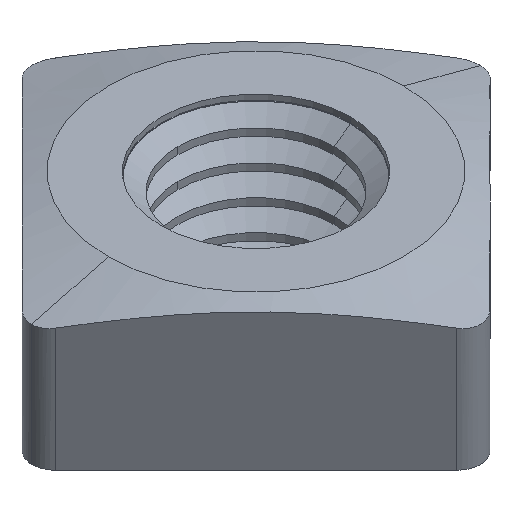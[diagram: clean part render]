
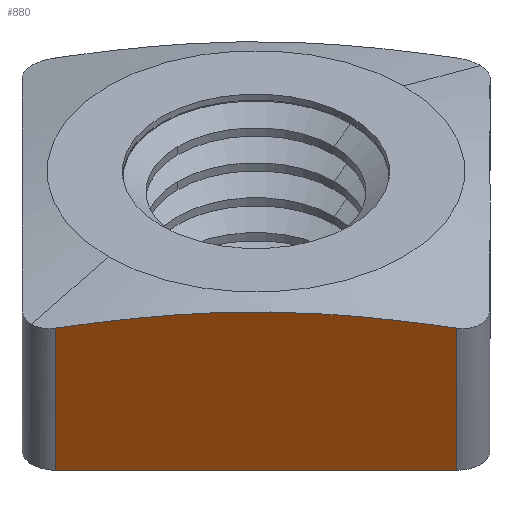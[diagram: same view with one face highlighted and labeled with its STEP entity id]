
A CAD part, isometric view. The second image highlights one B-rep face of the part: STEP entity #880.
In plain terms, the highlighted planar face has unit normal (-0.707, -0.707, 0).
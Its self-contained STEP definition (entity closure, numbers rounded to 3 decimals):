
#34 = CARTESIAN_POINT ( 'NONE',  ( -0.354, -4.596, -0.297 ) ) ;
#59 = CARTESIAN_POINT ( 'NONE',  ( -4.596, -0.354, -2.9 ) ) ;
#67 = DIRECTION ( 'NONE',  ( 0., 0., -1. ) ) ;
#127 = ORIENTED_EDGE ( 'NONE', *, *, #1366, .T. ) ;
#131 = CARTESIAN_POINT ( 'NONE',  ( -2.475, -2.475, -2.9 ) ) ;
#276 = CARTESIAN_POINT ( 'NONE',  ( -3.178, -1.771, 0.002 ) ) ;
#310 = CARTESIAN_POINT ( 'NONE',  ( -4.95, 0., -3.2 ) ) ;
#367 = EDGE_CURVE ( 'NONE', #584, #380, #1387, .T. ) ;
#380 = VERTEX_POINT ( 'NONE', #1505 ) ;
#432 = FACE_OUTER_BOUND ( 'NONE', #766, .T. ) ;
#436 = VERTEX_POINT ( 'NONE', #1016 ) ;
#497 = CARTESIAN_POINT ( 'NONE',  ( -0.354, -4.596, -3.2 ) ) ;
#502 = B_SPLINE_CURVE_WITH_KNOTS ( 'NONE', 3,
 ( #877, #770, #1543, #276, #761, #637 ),
 .UNSPECIFIED., .F., .F.,
 ( 4, 2, 4 ),
 ( -0.003, 0., 0.003 ),
 .UNSPECIFIED. ) ;
#583 = DIRECTION ( 'NONE',  ( 0., 0., 1. ) ) ;
#584 = VERTEX_POINT ( 'NONE', #59 ) ;
#637 = CARTESIAN_POINT ( 'NONE',  ( -4.596, -0.354, -0.297 ) ) ;
#659 = VECTOR ( 'NONE', #67, 1000. ) ;
#706 = VECTOR ( 'NONE', #1236, 1000. ) ;
#736 = EDGE_CURVE ( 'NONE', #804, #436, #502, .T. ) ;
#746 = ORIENTED_EDGE ( 'NONE', *, *, #1512, .T. ) ;
#761 = CARTESIAN_POINT ( 'NONE',  ( -3.889, -1.06, -0.123 ) ) ;
#766 = EDGE_LOOP ( 'NONE', ( #1075, #746, #991, #127 ) ) ;
#770 = CARTESIAN_POINT ( 'NONE',  ( -1.042, -3.908, -0.128 ) ) ;
#804 = VERTEX_POINT ( 'NONE', #34 ) ;
#806 = CARTESIAN_POINT ( 'NONE',  ( -4.596, -0.354, -3.2 ) ) ;
#877 = CARTESIAN_POINT ( 'NONE',  ( -0.354, -4.596, -0.297 ) ) ;
#880 = ADVANCED_FACE ( 'NONE', ( #432 ), #908, .T. ) ;
#908 = PLANE ( 'NONE',  #1555 ) ;
#991 = ORIENTED_EDGE ( 'NONE', *, *, #736, .T. ) ;
#1016 = CARTESIAN_POINT ( 'NONE',  ( -4.596, -0.354, -0.297 ) ) ;
#1075 = ORIENTED_EDGE ( 'NONE', *, *, #367, .T. ) ;
#1123 = DIRECTION ( 'NONE',  ( 0.707, -0.707, 0. ) ) ;
#1236 = DIRECTION ( 'NONE',  ( 0.707, -0.707, 0. ) ) ;
#1245 = DIRECTION ( 'NONE',  ( -0.707, -0.707, 0. ) ) ;
#1285 = VECTOR ( 'NONE', #583, 1000. ) ;
#1341 = LINE ( 'NONE', #497, #1285 ) ;
#1366 = EDGE_CURVE ( 'NONE', #436, #584, #1551, .T. ) ;
#1387 = LINE ( 'NONE', #131, #706 ) ;
#1505 = CARTESIAN_POINT ( 'NONE',  ( -0.354, -4.596, -2.9 ) ) ;
#1512 = EDGE_CURVE ( 'NONE', #380, #804, #1341, .T. ) ;
#1543 = CARTESIAN_POINT ( 'NONE',  ( -1.738, -3.211, -0.002 ) ) ;
#1551 = LINE ( 'NONE', #806, #659 ) ;
#1555 = AXIS2_PLACEMENT_3D ( 'NONE', #310, #1245, #1123 ) ;
